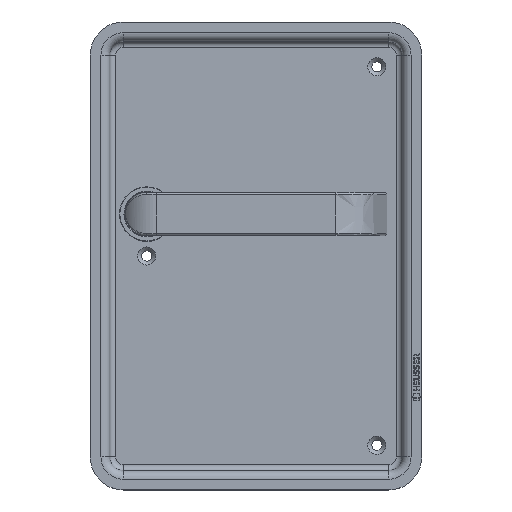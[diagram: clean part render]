
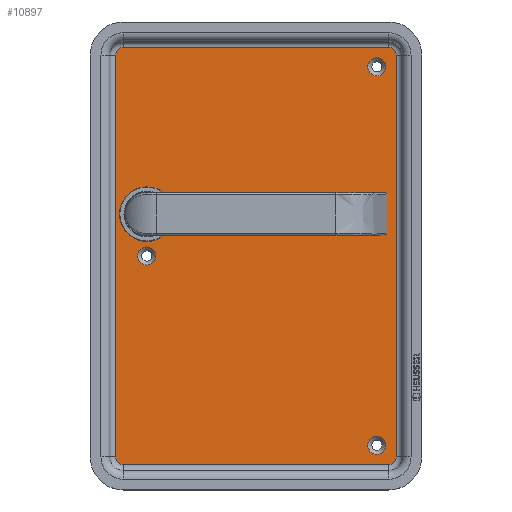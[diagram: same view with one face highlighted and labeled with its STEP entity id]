
A CAD part, top view. The second image highlights one B-rep face of the part: STEP entity #10897.
In plain terms, the highlighted planar face has unit normal (0, 0, 1).
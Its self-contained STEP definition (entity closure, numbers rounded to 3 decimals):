
#677=LINE('',#14611,#1630);
#679=LINE('',#14629,#1632);
#680=LINE('',#14632,#1633);
#682=LINE('',#14649,#1635);
#1630=VECTOR('',#12295,10.);
#1632=VECTOR('',#12317,10.);
#1633=VECTOR('',#12320,10.);
#1635=VECTOR('',#12342,10.);
#2666=FACE_BOUND('',#3459,.T.);
#2667=FACE_BOUND('',#3460,.T.);
#2668=FACE_BOUND('',#3461,.T.);
#2669=FACE_BOUND('',#3462,.T.);
#2824=FACE_OUTER_BOUND('',#3458,.T.);
#3458=EDGE_LOOP('',(#7174,#7175,#7176,#7177,#7178,#7179,#7180,#7181));
#3459=EDGE_LOOP('',(#7182));
#3460=EDGE_LOOP('',(#7183));
#3461=EDGE_LOOP('',(#7184));
#3462=EDGE_LOOP('',(#7185));
#4102=CIRCLE('',#11511,4.);
#4103=CIRCLE('',#11513,4.);
#4110=CIRCLE('',#11523,4.);
#4111=CIRCLE('',#11525,4.);
#4160=CIRCLE('',#11625,4.65);
#4161=CIRCLE('',#11627,4.65);
#4162=CIRCLE('',#11629,14.);
#4163=CIRCLE('',#11630,4.65);
#4295=VERTEX_POINT('',#14605);
#4297=VERTEX_POINT('',#14609);
#4299=VERTEX_POINT('',#14615);
#4300=VERTEX_POINT('',#14619);
#4303=VERTEX_POINT('',#14627);
#4304=VERTEX_POINT('',#14631);
#4307=VERTEX_POINT('',#14639);
#4308=VERTEX_POINT('',#14643);
#4369=VERTEX_POINT('',#14861);
#4370=VERTEX_POINT('',#14864);
#4371=VERTEX_POINT('',#14867);
#4372=VERTEX_POINT('',#14869);
#5343=EDGE_CURVE('',#4297,#4295,#677,.T.);
#5346=EDGE_CURVE('',#4299,#4297,#4102,.T.);
#5347=EDGE_CURVE('',#4295,#4300,#4103,.T.);
#5352=EDGE_CURVE('',#4303,#4299,#679,.T.);
#5353=EDGE_CURVE('',#4300,#4304,#680,.T.);
#5358=EDGE_CURVE('',#4307,#4303,#4110,.T.);
#5359=EDGE_CURVE('',#4304,#4308,#4111,.T.);
#5362=EDGE_CURVE('',#4308,#4307,#682,.T.);
#5463=EDGE_CURVE('',#4369,#4369,#4160,.T.);
#5464=EDGE_CURVE('',#4370,#4370,#4161,.T.);
#5465=EDGE_CURVE('',#4371,#4371,#4162,.T.);
#5466=EDGE_CURVE('',#4372,#4372,#4163,.T.);
#7174=ORIENTED_EDGE('',*,*,#5362,.F.);
#7175=ORIENTED_EDGE('',*,*,#5359,.F.);
#7176=ORIENTED_EDGE('',*,*,#5353,.F.);
#7177=ORIENTED_EDGE('',*,*,#5347,.F.);
#7178=ORIENTED_EDGE('',*,*,#5343,.F.);
#7179=ORIENTED_EDGE('',*,*,#5346,.F.);
#7180=ORIENTED_EDGE('',*,*,#5352,.F.);
#7181=ORIENTED_EDGE('',*,*,#5358,.F.);
#7182=ORIENTED_EDGE('',*,*,#5465,.T.);
#7183=ORIENTED_EDGE('',*,*,#5464,.F.);
#7184=ORIENTED_EDGE('',*,*,#5463,.F.);
#7185=ORIENTED_EDGE('',*,*,#5466,.F.);
#9934=PLANE('',#11628);
#10897=ADVANCED_FACE('',(#2824,#2666,#2667,#2668,#2669),#9934,.T.);
#11511=AXIS2_PLACEMENT_3D('',#14617,#12302,#12303);
#11513=AXIS2_PLACEMENT_3D('',#14620,#12306,#12307);
#11523=AXIS2_PLACEMENT_3D('',#14641,#12330,#12331);
#11525=AXIS2_PLACEMENT_3D('',#14644,#12334,#12335);
#11625=AXIS2_PLACEMENT_3D('',#14862,#12587,#12588);
#11627=AXIS2_PLACEMENT_3D('',#14865,#12591,#12592);
#11628=AXIS2_PLACEMENT_3D('',#14866,#12593,#12594);
#11629=AXIS2_PLACEMENT_3D('',#14868,#12595,#12596);
#11630=AXIS2_PLACEMENT_3D('',#14870,#12597,#12598);
#12295=DIRECTION('',(0.,-1.,0.));
#12302=DIRECTION('center_axis',(0.,0.,-1.));
#12303=DIRECTION('ref_axis',(0.707,0.707,0.));
#12306=DIRECTION('center_axis',(0.,0.,-1.));
#12307=DIRECTION('ref_axis',(0.707,-0.707,0.));
#12317=DIRECTION('',(1.,0.,0.));
#12320=DIRECTION('',(-1.,0.,0.));
#12330=DIRECTION('center_axis',(0.,0.,-1.));
#12331=DIRECTION('ref_axis',(-0.707,0.707,0.));
#12334=DIRECTION('center_axis',(0.,0.,-1.));
#12335=DIRECTION('ref_axis',(-0.707,-0.707,0.));
#12342=DIRECTION('',(0.,1.,0.));
#12587=DIRECTION('center_axis',(0.,0.,1.));
#12588=DIRECTION('ref_axis',(-1.,0.,0.));
#12591=DIRECTION('center_axis',(0.,0.,1.));
#12592=DIRECTION('ref_axis',(-1.,0.,0.));
#12593=DIRECTION('center_axis',(0.,0.,1.));
#12594=DIRECTION('ref_axis',(1.,0.,0.));
#12595=DIRECTION('center_axis',(0.,0.,-1.));
#12596=DIRECTION('ref_axis',(1.,0.,0.));
#12597=DIRECTION('center_axis',(0.,0.,1.));
#12598=DIRECTION('ref_axis',(-1.,0.,0.));
#14605=CARTESIAN_POINT('',(70.865,-93.546,-5.5));
#14609=CARTESIAN_POINT('',(70.865,112.454,-5.5));
#14611=CARTESIAN_POINT('',(70.865,60.954,-5.5));
#14615=CARTESIAN_POINT('',(66.865,116.454,-5.5));
#14617=CARTESIAN_POINT('Origin',(66.865,112.454,-5.5));
#14619=CARTESIAN_POINT('',(66.865,-97.546,-5.5));
#14620=CARTESIAN_POINT('Origin',(66.865,-93.546,-5.5));
#14627=CARTESIAN_POINT('',(-69.135,116.454,-5.5));
#14629=CARTESIAN_POINT('',(-35.135,116.454,-5.5));
#14631=CARTESIAN_POINT('',(-69.135,-97.546,-5.5));
#14632=CARTESIAN_POINT('',(32.865,-97.546,-5.5));
#14639=CARTESIAN_POINT('',(-73.135,112.454,-5.5));
#14641=CARTESIAN_POINT('Origin',(-69.135,112.454,-5.5));
#14643=CARTESIAN_POINT('',(-73.135,-93.546,-5.5));
#14644=CARTESIAN_POINT('Origin',(-69.135,-93.546,-5.5));
#14649=CARTESIAN_POINT('',(-73.135,-42.046,-5.5));
#14861=CARTESIAN_POINT('',(65.515,-87.546,-5.5));
#14862=CARTESIAN_POINT('Origin',(60.865,-87.546,-5.5));
#14864=CARTESIAN_POINT('',(65.515,106.454,-5.5));
#14865=CARTESIAN_POINT('Origin',(60.865,106.454,-5.5));
#14866=CARTESIAN_POINT('Origin',(-1.135,9.454,-5.5));
#14867=CARTESIAN_POINT('',(-71.135,30.954,-5.5));
#14868=CARTESIAN_POINT('Origin',(-57.135,30.954,-5.5));
#14869=CARTESIAN_POINT('',(-52.485,9.454,-5.5));
#14870=CARTESIAN_POINT('Origin',(-57.135,9.454,-5.5));
